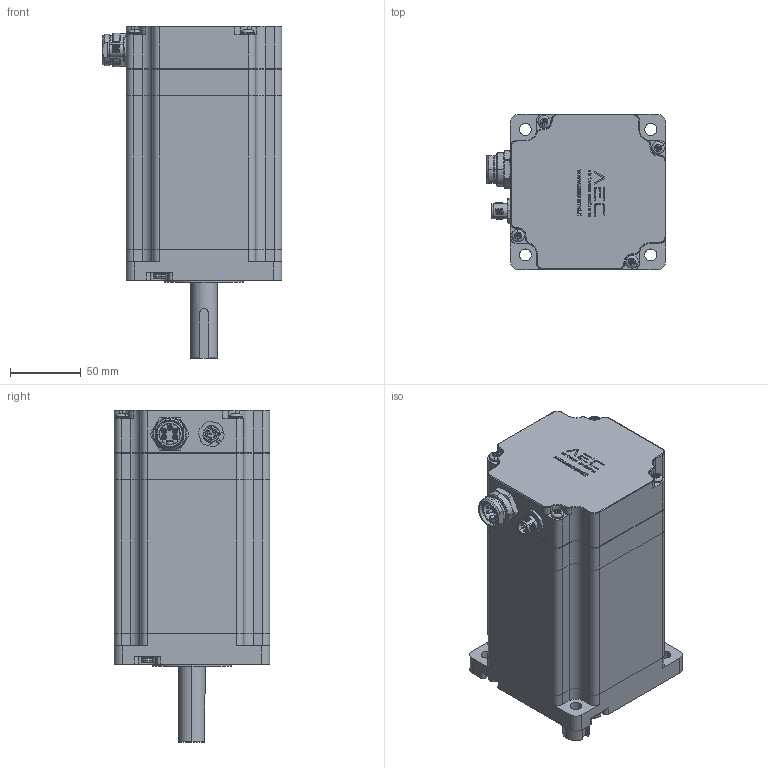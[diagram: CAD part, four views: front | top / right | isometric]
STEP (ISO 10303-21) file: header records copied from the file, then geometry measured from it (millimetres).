
FILE_DESCRIPTION (( 'STEP AP214' ), '1' );
FILE_NAME ('M110SH150-TO0512L05C.STEP', '2025-05-24T08:53:44', ( '' ), ( '' ), 'SwSTEP 2.0', 'SolidWorks 2019', '' );
FILE_SCHEMA (( 'AUTOMOTIVE_DESIGN' ));
Length unit declared in the file: millimetre
Products named in the file (1): M110SH150-TO0512L05C
Bounding box: 127 x 110 x 235 mm (x, y, z)
Volume: 804980.5 mm3; surface area: 283797.6 mm2
Topology: 45 solids, 45 shells, 1977 faces, 5159 edges, 3305 vertices
Faces by surface type: plane 874, cylinder 497, bspline 379, cone 137, torus 90
Entity records: 98678 total; most frequent: CARTESIAN_POINT 30121, ORIENTED_EDGE 10128, DIRECTION 8777, EDGE_CURVE 5064, VERTEX_POINT 3305, AXIS2_PLACEMENT_3D 3070, VECTOR 2637, LINE 2637
